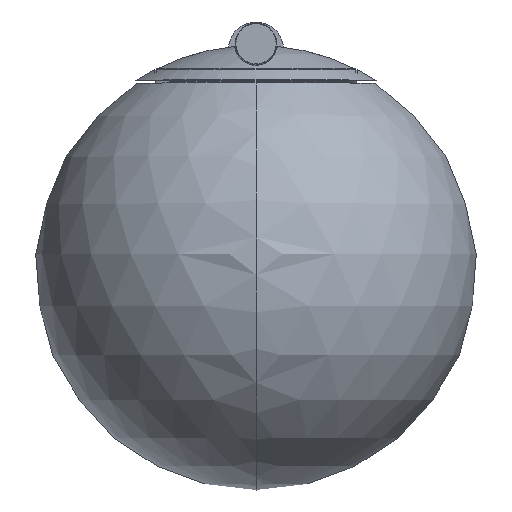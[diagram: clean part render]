
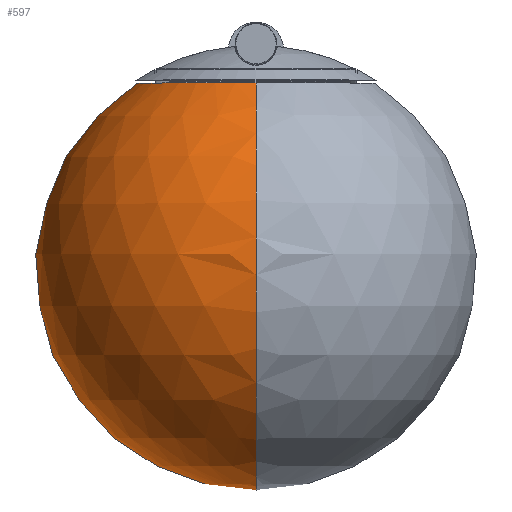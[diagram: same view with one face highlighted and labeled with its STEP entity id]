
A CAD part, top view. The second image highlights one B-rep face of the part: STEP entity #597.
In plain terms, the highlighted spherical face has radius 80 mm.
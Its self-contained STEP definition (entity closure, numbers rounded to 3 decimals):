
#558=CARTESIAN_POINT('',(0.,44.739,44.));
#559=DIRECTION('',(0.,1.,0.));
#560=DIRECTION('',(0.,0.,-1.));
#561=AXIS2_PLACEMENT_3D('',#558,#559,#560);
#563=CARTESIAN_POINT('',(0.,-22.691,44.));
#564=DIRECTION('',(-1.,0.,0.));
#565=DIRECTION('',(0.,0.843,-0.538));
#566=AXIS2_PLACEMENT_3D('',#563,#564,#565);
#568=CARTESIAN_POINT('',(0.,-22.691,44.));
#569=DIRECTION('',(1.,0.,0.));
#570=DIRECTION('',(0.,0.843,0.538));
#571=AXIS2_PLACEMENT_3D('',#568,#569,#570);
#578=CARTESIAN_POINT('',(0.,44.739,0.951));
#579=CARTESIAN_POINT('',(0.,-102.691,44.));
#580=VERTEX_POINT('',#578);
#581=VERTEX_POINT('',#579);
#582=CARTESIAN_POINT('',(0.,44.739,87.049));
#583=VERTEX_POINT('',#582);
#584=CARTESIAN_POINT('',(0.,-22.691,44.));
#585=DIRECTION('',(0.,1.,0.));
#586=DIRECTION('',(0.,0.,1.));
#587=AXIS2_PLACEMENT_3D('',#584,#585,#586);
#588=SPHERICAL_SURFACE('',#587,80.);
#590=ORIENTED_EDGE('',*,*,#589,.F.);
#592=ORIENTED_EDGE('',*,*,#591,.T.);
#594=ORIENTED_EDGE('',*,*,#593,.T.);
#595=EDGE_LOOP('',(#590,#592,#594));
#596=FACE_OUTER_BOUND('',#595,.F.);
#597=ADVANCED_FACE('',(#596),#588,.T.);
#562=CIRCLE('',#561,43.049);
#567=CIRCLE('',#566,80.);
#572=CIRCLE('',#571,80.);
#589=EDGE_CURVE('',#580,#581,#567,.T.);
#591=EDGE_CURVE('',#580,#583,#562,.T.);
#593=EDGE_CURVE('',#583,#581,#572,.T.);
